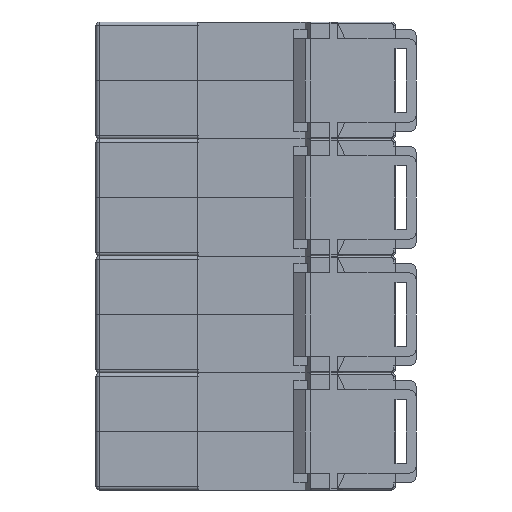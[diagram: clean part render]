
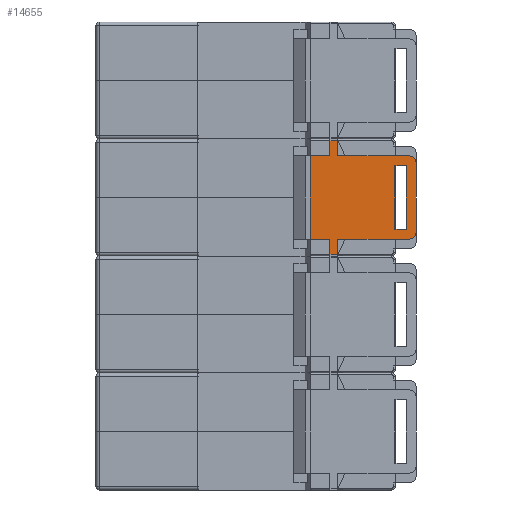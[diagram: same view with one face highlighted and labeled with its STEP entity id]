
A CAD part, front view. The second image highlights one B-rep face of the part: STEP entity #14655.
In plain terms, the highlighted planar face has unit normal (0, -1, 0).
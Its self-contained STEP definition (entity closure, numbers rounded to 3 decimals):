
#215=FACE_BOUND('',#5684,.T.);
#724=PLANE('',#15932);
#1938=LINE('',#23516,#3547);
#1942=LINE('',#23525,#3551);
#1946=LINE('',#23532,#3555);
#1952=LINE('',#23549,#3561);
#2166=LINE('',#24022,#3775);
#2172=LINE('',#24035,#3781);
#2178=LINE('',#24048,#3787);
#2182=LINE('',#24055,#3791);
#2185=LINE('',#24060,#3794);
#2198=LINE('',#24090,#3807);
#2201=LINE('',#24097,#3810);
#2207=LINE('',#24110,#3816);
#2209=LINE('',#24114,#3818);
#2217=LINE('',#24130,#3826);
#2223=LINE('',#24144,#3832);
#2227=LINE('',#24150,#3836);
#2228=LINE('',#24152,#3837);
#2229=LINE('',#24154,#3838);
#2230=LINE('',#24155,#3839);
#2231=LINE('',#24156,#3840);
#3547=VECTOR('',#19028,10.);
#3551=VECTOR('',#19034,10.);
#3555=VECTOR('',#19040,10.);
#3561=VECTOR('',#19056,10.);
#3775=VECTOR('',#19496,10.);
#3781=VECTOR('',#19510,10.);
#3787=VECTOR('',#19524,10.);
#3791=VECTOR('',#19530,10.);
#3794=VECTOR('',#19535,10.);
#3807=VECTOR('',#19564,10.);
#3810=VECTOR('',#19575,10.);
#3816=VECTOR('',#19587,10.);
#3818=VECTOR('',#19591,10.);
#3826=VECTOR('',#19607,10.);
#3832=VECTOR('',#19617,10.);
#3836=VECTOR('',#19625,10.);
#3837=VECTOR('',#19628,10.);
#3838=VECTOR('',#19629,10.);
#3839=VECTOR('',#19630,10.);
#3840=VECTOR('',#19631,10.);
#4877=FACE_OUTER_BOUND('',#5683,.T.);
#5683=EDGE_LOOP('',(#13146,#13147,#13148,#13149,#13150,#13151,#13152,#13153,
#13154,#13155,#13156,#13157,#13158,#13159,#13160,#13161,#13162,#13163));
#5684=EDGE_LOOP('',(#13164,#13165,#13166,#13167));
#6202=CIRCLE('',#15900,2.);
#6203=CIRCLE('',#15903,2.);
#7244=VERTEX_POINT('',#23514);
#7245=VERTEX_POINT('',#23515);
#7248=VERTEX_POINT('',#23523);
#7249=VERTEX_POINT('',#23524);
#7251=VERTEX_POINT('',#23531);
#7256=VERTEX_POINT('',#23547);
#7257=VERTEX_POINT('',#23548);
#7402=VERTEX_POINT('',#24019);
#7403=VERTEX_POINT('',#24021);
#7405=VERTEX_POINT('',#24030);
#7406=VERTEX_POINT('',#24034);
#7409=VERTEX_POINT('',#24047);
#7411=VERTEX_POINT('',#24053);
#7412=VERTEX_POINT('',#24058);
#7420=VERTEX_POINT('',#24087);
#7421=VERTEX_POINT('',#24089);
#7425=VERTEX_POINT('',#24109);
#7426=VERTEX_POINT('',#24113);
#7430=VERTEX_POINT('',#24127);
#7435=VERTEX_POINT('',#24142);
#7436=VERTEX_POINT('',#24143);
#7437=VERTEX_POINT('',#24153);
#9113=EDGE_CURVE('',#7244,#7245,#1938,.T.);
#9117=EDGE_CURVE('',#7248,#7249,#1942,.T.);
#9121=EDGE_CURVE('',#7248,#7251,#1946,.T.);
#9129=EDGE_CURVE('',#7256,#7257,#1952,.T.);
#9369=EDGE_CURVE('',#7402,#7403,#2166,.T.);
#9374=EDGE_CURVE('',#7405,#7244,#6202,.T.);
#9376=EDGE_CURVE('',#7406,#7405,#2172,.T.);
#9378=EDGE_CURVE('',#7257,#7406,#6203,.T.);
#9383=EDGE_CURVE('',#7409,#7251,#2178,.T.);
#9387=EDGE_CURVE('',#7411,#7256,#2182,.T.);
#9390=EDGE_CURVE('',#7412,#7402,#2185,.T.);
#9404=EDGE_CURVE('',#7420,#7421,#2198,.T.);
#9408=EDGE_CURVE('',#7403,#7420,#2201,.T.);
#9414=EDGE_CURVE('',#7425,#7411,#2207,.T.);
#9416=EDGE_CURVE('',#7426,#7425,#2209,.T.);
#9425=EDGE_CURVE('',#7245,#7430,#2217,.T.);
#9431=EDGE_CURVE('',#7435,#7436,#2223,.T.);
#9435=EDGE_CURVE('',#7430,#7435,#2227,.T.);
#9436=EDGE_CURVE('',#7421,#7426,#2228,.T.);
#9437=EDGE_CURVE('',#7412,#7437,#2229,.T.);
#9438=EDGE_CURVE('',#7436,#7437,#2230,.T.);
#9439=EDGE_CURVE('',#7249,#7409,#2231,.T.);
#13146=ORIENTED_EDGE('',*,*,#9374,.F.);
#13147=ORIENTED_EDGE('',*,*,#9376,.F.);
#13148=ORIENTED_EDGE('',*,*,#9378,.F.);
#13149=ORIENTED_EDGE('',*,*,#9129,.F.);
#13150=ORIENTED_EDGE('',*,*,#9387,.F.);
#13151=ORIENTED_EDGE('',*,*,#9414,.F.);
#13152=ORIENTED_EDGE('',*,*,#9416,.F.);
#13153=ORIENTED_EDGE('',*,*,#9436,.F.);
#13154=ORIENTED_EDGE('',*,*,#9404,.F.);
#13155=ORIENTED_EDGE('',*,*,#9408,.F.);
#13156=ORIENTED_EDGE('',*,*,#9369,.F.);
#13157=ORIENTED_EDGE('',*,*,#9390,.F.);
#13158=ORIENTED_EDGE('',*,*,#9437,.T.);
#13159=ORIENTED_EDGE('',*,*,#9438,.F.);
#13160=ORIENTED_EDGE('',*,*,#9431,.F.);
#13161=ORIENTED_EDGE('',*,*,#9435,.F.);
#13162=ORIENTED_EDGE('',*,*,#9425,.F.);
#13163=ORIENTED_EDGE('',*,*,#9113,.F.);
#13164=ORIENTED_EDGE('',*,*,#9117,.T.);
#13165=ORIENTED_EDGE('',*,*,#9439,.T.);
#13166=ORIENTED_EDGE('',*,*,#9383,.T.);
#13167=ORIENTED_EDGE('',*,*,#9121,.F.);
#14655=ADVANCED_FACE('',(#4877,#215),#724,.T.);
#15900=AXIS2_PLACEMENT_3D('',#24031,#19505,#19506);
#15903=AXIS2_PLACEMENT_3D('',#24038,#19514,#19515);
#15932=AXIS2_PLACEMENT_3D('',#24151,#19626,#19627);
#19028=DIRECTION('',(-1.,0.,0.));
#19034=DIRECTION('',(-1.,0.,0.));
#19040=DIRECTION('',(0.,0.,1.));
#19056=DIRECTION('',(1.,0.,0.));
#19496=DIRECTION('',(0.,0.,1.));
#19505=DIRECTION('center_axis',(0.,1.,0.));
#19506=DIRECTION('ref_axis',(0.707,0.,-0.707));
#19510=DIRECTION('',(0.,0.,-1.));
#19514=DIRECTION('center_axis',(0.,1.,0.));
#19515=DIRECTION('ref_axis',(0.707,0.,0.707));
#19524=DIRECTION('',(1.,0.,0.));
#19530=DIRECTION('',(1.,0.,0.));
#19535=DIRECTION('',(-1.,0.,0.));
#19564=DIRECTION('',(0.,0.,1.));
#19575=DIRECTION('',(1.,0.,0.));
#19587=DIRECTION('',(1.,0.,0.));
#19591=DIRECTION('',(0.,0.,-1.));
#19607=DIRECTION('',(-1.,0.,0.));
#19617=DIRECTION('',(0.,0.,-1.));
#19625=DIRECTION('',(-1.,0.,0.));
#19626=DIRECTION('center_axis',(0.,-1.,0.));
#19627=DIRECTION('ref_axis',(0.,0.,-1.));
#19628=DIRECTION('',(1.,0.,0.));
#19629=DIRECTION('',(0.,0.,-1.));
#19630=DIRECTION('',(-1.,0.,0.));
#19631=DIRECTION('',(0.,0.,1.));
#23514=CARTESIAN_POINT('',(94.3,0.05,5.1));
#23515=CARTESIAN_POINT('',(90.,0.05,5.1));
#23516=CARTESIAN_POINT('',(88.116,0.05,5.1));
#23523=CARTESIAN_POINT('',(93.4,0.05,8.1));
#23524=CARTESIAN_POINT('',(89.95,0.05,8.1));
#23525=CARTESIAN_POINT('',(84.966,0.05,8.1));
#23531=CARTESIAN_POINT('',(93.4,0.05,27.1));
#23532=CARTESIAN_POINT('',(93.4,0.05,12.85));
#23547=CARTESIAN_POINT('',(90.,0.05,30.1));
#23548=CARTESIAN_POINT('',(94.3,0.05,30.1));
#23549=CARTESIAN_POINT('',(88.116,0.05,30.1));
#24019=CARTESIAN_POINT('',(64.5,0.05,5.1));
#24021=CARTESIAN_POINT('',(64.5,0.05,30.1));
#24022=CARTESIAN_POINT('',(64.5,0.05,33.05));
#24030=CARTESIAN_POINT('',(96.3,0.05,7.1));
#24031=CARTESIAN_POINT('Origin',(94.3,0.05,7.1));
#24034=CARTESIAN_POINT('',(96.3,0.05,28.1));
#24035=CARTESIAN_POINT('',(96.3,0.05,17.6));
#24038=CARTESIAN_POINT('Origin',(94.3,0.05,28.1));
#24047=CARTESIAN_POINT('',(89.95,0.05,27.1));
#24048=CARTESIAN_POINT('',(84.966,0.05,27.1));
#24053=CARTESIAN_POINT('',(74.9,0.05,30.1));
#24055=CARTESIAN_POINT('',(90.,0.05,30.1));
#24058=CARTESIAN_POINT('',(70.4,0.05,5.1));
#24060=CARTESIAN_POINT('',(90.,0.05,5.1));
#24087=CARTESIAN_POINT('',(70.4,0.05,30.1));
#24089=CARTESIAN_POINT('',(70.4,0.05,34.7));
#24090=CARTESIAN_POINT('',(70.4,0.05,34.7));
#24097=CARTESIAN_POINT('',(90.,0.05,30.1));
#24109=CARTESIAN_POINT('',(72.6,0.05,30.1));
#24110=CARTESIAN_POINT('',(90.,0.05,30.1));
#24113=CARTESIAN_POINT('',(72.6,0.05,34.7));
#24114=CARTESIAN_POINT('',(72.6,0.05,31.25));
#24127=CARTESIAN_POINT('',(74.9,0.05,5.1));
#24130=CARTESIAN_POINT('',(90.,0.05,5.1));
#24142=CARTESIAN_POINT('',(72.6,0.05,5.1));
#24143=CARTESIAN_POINT('',(72.6,0.05,0.5));
#24144=CARTESIAN_POINT('',(72.6,0.05,3.95));
#24150=CARTESIAN_POINT('',(90.,0.05,5.1));
#24151=CARTESIAN_POINT('Origin',(79.931,0.05,17.6));
#24152=CARTESIAN_POINT('',(71.5,0.05,34.7));
#24153=CARTESIAN_POINT('',(70.4,0.05,0.5));
#24154=CARTESIAN_POINT('',(70.4,0.05,0.5));
#24155=CARTESIAN_POINT('',(71.5,0.05,0.5));
#24156=CARTESIAN_POINT('',(89.95,0.05,17.6));
